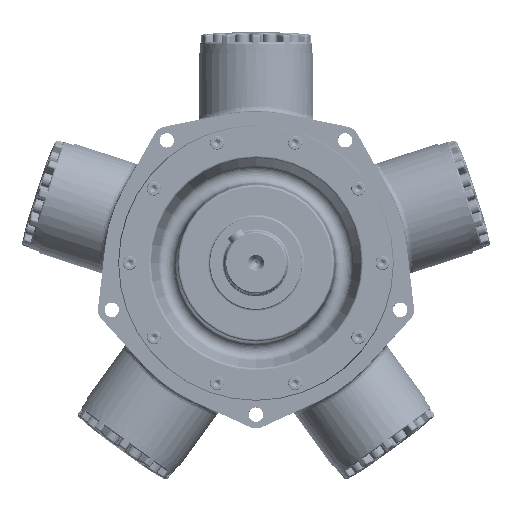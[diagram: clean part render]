
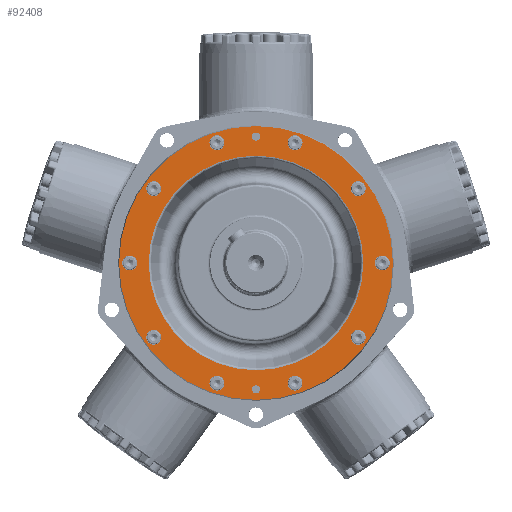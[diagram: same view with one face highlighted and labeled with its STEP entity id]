
A CAD part, top view. The second image highlights one B-rep face of the part: STEP entity #92408.
In plain terms, the highlighted planar face has unit normal (0, 0, 1).
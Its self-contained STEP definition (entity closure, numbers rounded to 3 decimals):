
#91850=CARTESIAN_POINT('',(0.,148.273,69.151));
#91851=VERTEX_POINT('',#91850);
#91852=CARTESIAN_POINT('',(0.0,0.0,69.151));
#91853=DIRECTION('',(0.0,0.0,1.0));
#91854=DIRECTION('',(0.0,-1.0,0.0));
#91855=AXIS2_PLACEMENT_3D('',#91852,#91853,#91854);
#91856=CIRCLE('',#91855,148.273);
#91857=EDGE_CURVE('',#91851,#91851,#91856,.T.);
#92257=CARTESIAN_POINT('',(0.,169.862,69.151));
#92258=DIRECTION('',(0.0,0.0,1.0));
#92259=DIRECTION('',(1.0,0.0,0.0));
#92260=AXIS2_PLACEMENT_3D('',#92257,#92258,#92259);
#92261=PLANE('',#92260);
#92262=CARTESIAN_POINT('',(0.,-189.176,69.151));
#92263=VERTEX_POINT('',#92262);
#92264=CARTESIAN_POINT('',(0.0,0.0,69.151));
#92265=DIRECTION('',(0.0,0.0,-1.0));
#92266=DIRECTION('',(0.0,1.0,0.0));
#92267=AXIS2_PLACEMENT_3D('',#92264,#92265,#92266);
#92268=CIRCLE('',#92267,189.176);
#92269=EDGE_CURVE('',#92263,#92263,#92268,.T.);
#92270=ORIENTED_EDGE('',*,*,#92269,.F.);
#92271=EDGE_LOOP('',(#92270));
#92272=FACE_OUTER_BOUND('',#92271,.T.);
#92273=CARTESIAN_POINT('',(62.31,160.013,69.151));
#92274=VERTEX_POINT('',#92273);
#92275=CARTESIAN_POINT('',(53.962,166.078,69.151));
#92276=DIRECTION('',(0.0,0.0,-1.0));
#92277=DIRECTION('',(0.809,-0.588,0.0));
#92278=AXIS2_PLACEMENT_3D('',#92275,#92276,#92277);
#92279=CIRCLE('',#92278,10.319);
#92280=EDGE_CURVE('',#92274,#92274,#92279,.T.);
#92281=ORIENTED_EDGE('',*,*,#92280,.T.);
#92282=EDGE_LOOP('',(#92281));
#92283=FACE_BOUND('',#92282,.T.);
#92284=CARTESIAN_POINT('',(144.463,92.828,69.151));
#92285=VERTEX_POINT('',#92284);
#92286=CARTESIAN_POINT('',(141.275,102.642,69.151));
#92287=DIRECTION('',(0.0,0.0,-1.0));
#92288=DIRECTION('',(0.309,-0.951,0.0));
#92289=AXIS2_PLACEMENT_3D('',#92286,#92287,#92288);
#92290=CIRCLE('',#92289,10.319);
#92291=EDGE_CURVE('',#92285,#92285,#92290,.T.);
#92292=ORIENTED_EDGE('',*,*,#92291,.T.);
#92293=EDGE_LOOP('',(#92292));
#92294=FACE_BOUND('',#92293,.T.);
#92295=CARTESIAN_POINT('',(171.436,-9.814,69.151));
#92296=VERTEX_POINT('',#92295);
#92297=CARTESIAN_POINT('',(174.625,0.,69.151));
#92298=DIRECTION('',(0.0,0.0,-1.0));
#92299=DIRECTION('',(-0.309,-0.951,0.0));
#92300=AXIS2_PLACEMENT_3D('',#92297,#92298,#92299);
#92301=CIRCLE('',#92300,10.319);
#92302=EDGE_CURVE('',#92296,#92296,#92301,.T.);
#92303=ORIENTED_EDGE('',*,*,#92302,.T.);
#92304=EDGE_LOOP('',(#92303));
#92305=FACE_BOUND('',#92304,.T.);
#92306=CARTESIAN_POINT('',(132.927,-108.707,69.151));
#92307=VERTEX_POINT('',#92306);
#92308=CARTESIAN_POINT('',(141.275,-102.642,69.151));
#92309=DIRECTION('',(0.0,0.0,-1.0));
#92310=DIRECTION('',(-0.809,-0.588,0.0));
#92311=AXIS2_PLACEMENT_3D('',#92308,#92309,#92310);
#92312=CIRCLE('',#92311,10.319);
#92313=EDGE_CURVE('',#92307,#92307,#92312,.T.);
#92314=ORIENTED_EDGE('',*,*,#92313,.T.);
#92315=EDGE_LOOP('',(#92314));
#92316=FACE_BOUND('',#92315,.T.);
#92317=CARTESIAN_POINT('',(43.643,-166.078,69.151));
#92318=VERTEX_POINT('',#92317);
#92319=CARTESIAN_POINT('',(53.962,-166.078,69.151));
#92320=DIRECTION('',(0.0,0.0,-1.0));
#92321=DIRECTION('',(-1.0,0.0,0.0));
#92322=AXIS2_PLACEMENT_3D('',#92319,#92320,#92321);
#92323=CIRCLE('',#92322,10.319);
#92324=EDGE_CURVE('',#92318,#92318,#92323,.T.);
#92325=ORIENTED_EDGE('',*,*,#92324,.T.);
#92326=EDGE_LOOP('',(#92325));
#92327=FACE_BOUND('',#92326,.T.);
#92328=CARTESIAN_POINT('',(-62.31,-160.013,69.151));
#92329=VERTEX_POINT('',#92328);
#92330=CARTESIAN_POINT('',(-53.962,-166.078,69.151));
#92331=DIRECTION('',(0.0,0.0,-1.0));
#92332=DIRECTION('',(-0.809,0.588,0.0));
#92333=AXIS2_PLACEMENT_3D('',#92330,#92331,#92332);
#92334=CIRCLE('',#92333,10.319);
#92335=EDGE_CURVE('',#92329,#92329,#92334,.T.);
#92336=ORIENTED_EDGE('',*,*,#92335,.T.);
#92337=EDGE_LOOP('',(#92336));
#92338=FACE_BOUND('',#92337,.T.);
#92339=CARTESIAN_POINT('',(-144.463,-92.828,69.151));
#92340=VERTEX_POINT('',#92339);
#92341=CARTESIAN_POINT('',(-141.275,-102.642,69.151));
#92342=DIRECTION('',(0.0,0.0,-1.0));
#92343=DIRECTION('',(-0.309,0.951,0.0));
#92344=AXIS2_PLACEMENT_3D('',#92341,#92342,#92343);
#92345=CIRCLE('',#92344,10.319);
#92346=EDGE_CURVE('',#92340,#92340,#92345,.T.);
#92347=ORIENTED_EDGE('',*,*,#92346,.T.);
#92348=EDGE_LOOP('',(#92347));
#92349=FACE_BOUND('',#92348,.T.);
#92350=CARTESIAN_POINT('',(-171.436,9.814,69.151));
#92351=VERTEX_POINT('',#92350);
#92352=CARTESIAN_POINT('',(-174.625,0.,69.151));
#92353=DIRECTION('',(0.0,0.0,-1.0));
#92354=DIRECTION('',(0.309,0.951,0.0));
#92355=AXIS2_PLACEMENT_3D('',#92352,#92353,#92354);
#92356=CIRCLE('',#92355,10.319);
#92357=EDGE_CURVE('',#92351,#92351,#92356,.T.);
#92358=ORIENTED_EDGE('',*,*,#92357,.T.);
#92359=EDGE_LOOP('',(#92358));
#92360=FACE_BOUND('',#92359,.T.);
#92361=CARTESIAN_POINT('',(-132.927,108.707,69.151));
#92362=VERTEX_POINT('',#92361);
#92363=CARTESIAN_POINT('',(-141.275,102.642,69.151));
#92364=DIRECTION('',(0.0,0.0,-1.0));
#92365=DIRECTION('',(0.809,0.588,0.0));
#92366=AXIS2_PLACEMENT_3D('',#92363,#92364,#92365);
#92367=CIRCLE('',#92366,10.319);
#92368=EDGE_CURVE('',#92362,#92362,#92367,.T.);
#92369=ORIENTED_EDGE('',*,*,#92368,.T.);
#92370=EDGE_LOOP('',(#92369));
#92371=FACE_BOUND('',#92370,.T.);
#92372=CARTESIAN_POINT('',(-43.643,166.078,69.151));
#92373=VERTEX_POINT('',#92372);
#92374=CARTESIAN_POINT('',(-53.962,166.078,69.151));
#92375=DIRECTION('',(0.0,0.0,-1.0));
#92376=DIRECTION('',(1.0,0.0,0.0));
#92377=AXIS2_PLACEMENT_3D('',#92374,#92375,#92376);
#92378=CIRCLE('',#92377,10.319);
#92379=EDGE_CURVE('',#92373,#92373,#92378,.T.);
#92380=ORIENTED_EDGE('',*,*,#92379,.T.);
#92381=EDGE_LOOP('',(#92380));
#92382=FACE_BOUND('',#92381,.T.);
#92383=CARTESIAN_POINT('',(-5.664,-174.625,69.151));
#92384=VERTEX_POINT('',#92383);
#92385=CARTESIAN_POINT('',(0.,-174.625,69.151));
#92386=DIRECTION('',(0.0,0.0,-1.0));
#92387=DIRECTION('',(-1.0,0.0,0.0));
#92388=AXIS2_PLACEMENT_3D('',#92385,#92386,#92387);
#92389=CIRCLE('',#92388,5.664);
#92390=EDGE_CURVE('',#92384,#92384,#92389,.T.);
#92391=ORIENTED_EDGE('',*,*,#92390,.T.);
#92392=EDGE_LOOP('',(#92391));
#92393=FACE_BOUND('',#92392,.T.);
#92394=CARTESIAN_POINT('',(5.664,174.625,69.151));
#92395=VERTEX_POINT('',#92394);
#92396=CARTESIAN_POINT('',(0.,174.625,69.151));
#92397=DIRECTION('',(0.0,0.0,-1.0));
#92398=DIRECTION('',(1.0,0.0,0.0));
#92399=AXIS2_PLACEMENT_3D('',#92396,#92397,#92398);
#92400=CIRCLE('',#92399,5.664);
#92401=EDGE_CURVE('',#92395,#92395,#92400,.T.);
#92402=ORIENTED_EDGE('',*,*,#92401,.T.);
#92403=EDGE_LOOP('',(#92402));
#92404=FACE_BOUND('',#92403,.T.);
#92405=ORIENTED_EDGE('',*,*,#91857,.F.);
#92406=EDGE_LOOP('',(#92405));
#92407=FACE_BOUND('',#92406,.T.);
#92408=ADVANCED_FACE('',(#92272,#92283,#92294,#92305,#92316,#92327,#92338,#92349,#92360,#92371,#92382,#92393,#92404,#92407),#92261,.T.);
